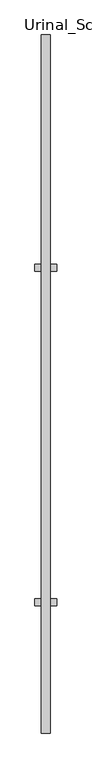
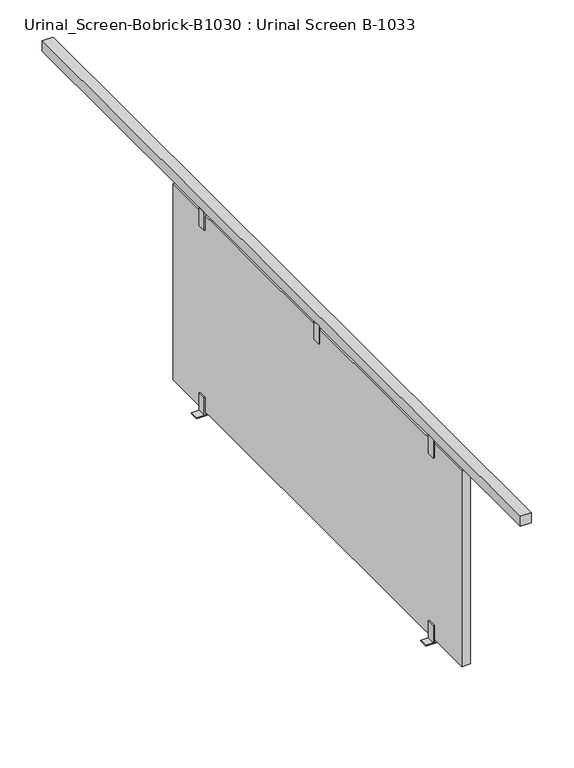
"""IFC4 building model written with IfcOpenShell, lengths in millimetres: proxy geometry, Urinal_Screen-Bobrick-B1030 : Urinal Screen B-1033."""

from ifc_helpers import new_model, si_unit, frame, origin, place, context, project, spatial, polyline, outline, extrude, source, transform, mapped, element, save


def urinal_screen_bobrick_b1030_urinal_screen_b_1033_217b7228(model_context):
    return source(origin(), model_context, "Body", "SweptSolid", [
        extrude(outline(polyline([(635.0, 15.875), (635.0, -15.875), (577.85, -15.875), (577.85, -12.7), (631.825, -12.7), (631.825, 12.7), (577.85, 12.7), (577.85, 15.875), (635.0, 15.875)])), frame((0.0, 139.7, 0.0), z_axis=(0.0, 1.0, 0.0), x_axis=(0.0, 0.0, 1.0)), (0.0, 0.0, 1.0), 25.4),
        extrude(outline(polyline([(635.0, 15.875), (635.0, -15.875), (577.85, -15.875), (577.85, -12.7), (631.825, -12.7), (631.825, 12.7), (577.85, 12.7), (577.85, 15.875), (635.0, 15.875)])), frame((0.0, 723.9, 0.0), z_axis=(0.0, 1.0, 0.0), x_axis=(0.0, 0.0, 1.0)), (0.0, 0.0, 1.0), 25.4),
        extrude(outline(polyline([(635.0, 15.875), (635.0, -15.875), (577.85, -15.875), (577.85, -12.7), (631.825, -12.7), (631.825, 12.7), (577.85, 12.7), (577.85, 15.875), (635.0, 15.875)])), frame((0.0, 1308.1, 0.0), z_axis=(0.0, 1.0, 0.0), x_axis=(0.0, 0.0, 1.0)), (0.0, 0.0, 1.0), 25.4),
        extrude(outline(polyline([(0.0, -38.1), (0.0, 38.1), (3.175, 38.1), (3.175, 15.875), (57.15, 15.875), (57.15, 12.7), (3.175, 12.7), (3.175, -12.7), (57.15, -12.7), (57.15, -15.875), (3.175, -15.875), (3.175, -38.1), (0.0, -38.1)])), frame((0.0, 1308.1, 0.0), z_axis=(0.0, 1.0, 0.0), x_axis=(0.0, 0.0, 1.0)), (0.0, 0.0, 1.0), 25.4),
        extrude(outline(polyline([(0.0, -38.1), (0.0, 38.1), (3.175, 38.1), (3.175, 15.875), (57.15, 15.875), (57.15, 12.7), (3.175, 12.7), (3.175, -12.7), (57.15, -12.7), (57.15, -15.875), (3.175, -15.875), (3.175, -38.1), (0.0, -38.1)])), frame((0.0, 139.7, 0.0), z_axis=(0.0, 1.0, 0.0), x_axis=(0.0, 0.0, 1.0)), (0.0, 0.0, 1.0), 25.4),
        extrude(outline(polyline([(15.875, -304.8), (-15.875, -304.8), (-15.875, 2133.6), (15.875, 2133.6), (15.875, -304.8)])), frame((0.0, 0.0, 635.0), z_axis=(0.0, 0.0, 1.0), x_axis=(1.0, 0.0, 0.0)), (0.0, 0.0, 1.0), 31.75),
        extrude(outline(polyline([(-12.7, 0.0), (-12.7, 1473.2), (12.7, 1473.2), (12.7, 0.0), (-12.7, 0.0)])), frame((0.0, 0.0, 12.7), z_axis=(0.0, 0.0, 1.0), x_axis=(1.0, 0.0, 0.0)), (0.0, 0.0, 1.0), 609.6),
    ])


if __name__ == "__main__":
    model = new_model("IFC4")
    model_context = context("Model", 3, world=origin())
    ifc_project = project(units=[si_unit("LENGTHUNIT", "METRE", prefix="MILLI")], contexts=[model_context])
    site = spatial("IfcSite", under=ifc_project)
    building = spatial("IfcBuilding", under=site)
    placement = place(None, origin())
    urinal_screen_bobrick_b1030_urinal_screen_b_1033_shape = urinal_screen_bobrick_b1030_urinal_screen_b_1033_217b7228(model_context)
    element("IfcBuildingElementProxy", 1, Name="Urinal_Screen-Bobrick-B1030 : Urinal Screen B-1033", ObjectType="Urinal_Screen-Bobrick-B1030 : Urinal Screen B-1033", at=placement, inside=building, context=model_context, shape_type="MappedRepresentation", body=[
        mapped(urinal_screen_bobrick_b1030_urinal_screen_b_1033_shape, transform((0.0, 0.0, 0.0), x_axis=(1.0, 0.0, 0.0), y_axis=(0.0, 1.0, 0.0), z_axis=(0.0, 0.0, 1.0))),
    ])
    save(model, "model.ifc")
